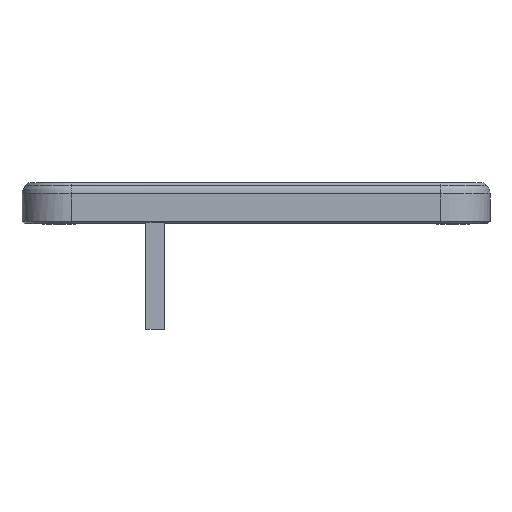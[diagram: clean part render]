
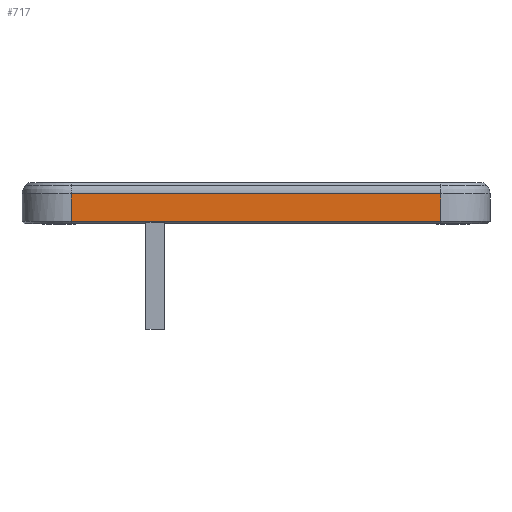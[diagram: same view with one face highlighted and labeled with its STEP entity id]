
A CAD part, front view. The second image highlights one B-rep face of the part: STEP entity #717.
In plain terms, the highlighted planar face has unit normal (0, -1, 0).
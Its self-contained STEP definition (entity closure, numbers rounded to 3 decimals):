
#44 = CYLINDRICAL_SURFACE('',#45,12.);
#45 = AXIS2_PLACEMENT_3D('',#46,#47,#48);
#46 = CARTESIAN_POINT('',(-9.94,-13.4,38.8));
#47 = DIRECTION('',(0.,0.,1.));
#48 = DIRECTION('',(-1.,-0.,0.));
#143 = VERTEX_POINT('',#144);
#144 = CARTESIAN_POINT('',(-9.94,-25.4,39.4));
#171 = EDGE_CURVE('',#143,#172,#174,.T.);
#172 = VERTEX_POINT('',#173);
#173 = CARTESIAN_POINT('',(-9.94,-25.4,46.057));
#174 = SURFACE_CURVE('',#175,(#179,#186),.PCURVE_S1.);
#175 = LINE('',#176,#177);
#176 = CARTESIAN_POINT('',(-9.94,-25.4,38.8));
#177 = VECTOR('',#178,1.);
#178 = DIRECTION('',(0.,0.,1.));
#179 = PCURVE('',#44,#180);
#180 = DEFINITIONAL_REPRESENTATION('',(#181),#185);
#181 = LINE('',#182,#183);
#182 = CARTESIAN_POINT('',(1.571,0.));
#183 = VECTOR('',#184,1.);
#184 = DIRECTION('',(0.,1.));
#185 = ( GEOMETRIC_REPRESENTATION_CONTEXT(2) 
PARAMETRIC_REPRESENTATION_CONTEXT() REPRESENTATION_CONTEXT('2D SPACE',''
  ) );
#186 = PCURVE('',#187,#192);
#187 = PLANE('',#188);
#188 = AXIS2_PLACEMENT_3D('',#189,#190,#191);
#189 = CARTESIAN_POINT('',(-21.94,-25.4,38.8));
#190 = DIRECTION('',(0.,1.,0.));
#191 = DIRECTION('',(0.,0.,1.));
#192 = DEFINITIONAL_REPRESENTATION('',(#193),#197);
#193 = LINE('',#194,#195);
#194 = CARTESIAN_POINT('',(0.,12.));
#195 = VECTOR('',#196,1.);
#196 = DIRECTION('',(1.,0.));
#197 = ( GEOMETRIC_REPRESENTATION_CONTEXT(2) 
PARAMETRIC_REPRESENTATION_CONTEXT() REPRESENTATION_CONTEXT('2D SPACE',''
  ) );
#584 = PLANE('',#585);
#585 = AXIS2_PLACEMENT_3D('',#586,#587,#588);
#586 = CARTESIAN_POINT('',(80.4,-25.1,39.1));
#587 = DIRECTION('',(0.,-0.707,-0.707
    ));
#588 = DIRECTION('',(-1.,0.,0.));
#670 = CYLINDRICAL_SURFACE('',#671,3.);
#671 = AXIS2_PLACEMENT_3D('',#672,#673,#674);
#672 = CARTESIAN_POINT('',(80.4,-22.4,46.057));
#673 = DIRECTION('',(-1.,-0.,-0.));
#674 = DIRECTION('',(0.,-1.,0.));
#717 = ADVANCED_FACE('',(#718),#187,.F.);
#718 = FACE_BOUND('',#719,.F.);
#719 = EDGE_LOOP('',(#720,#721,#744,#772));
#720 = ORIENTED_EDGE('',*,*,#171,.T.);
#721 = ORIENTED_EDGE('',*,*,#722,.F.);
#722 = EDGE_CURVE('',#723,#172,#725,.T.);
#723 = VERTEX_POINT('',#724);
#724 = CARTESIAN_POINT('',(80.4,-25.4,46.057));
#725 = SURFACE_CURVE('',#726,(#730,#737),.PCURVE_S1.);
#726 = LINE('',#727,#728);
#727 = CARTESIAN_POINT('',(80.4,-25.4,46.057));
#728 = VECTOR('',#729,1.);
#729 = DIRECTION('',(-1.,-0.,-0.));
#730 = PCURVE('',#187,#731);
#731 = DEFINITIONAL_REPRESENTATION('',(#732),#736);
#732 = LINE('',#733,#734);
#733 = CARTESIAN_POINT('',(7.257,102.34));
#734 = VECTOR('',#735,1.);
#735 = DIRECTION('',(-0.,-1.));
#736 = ( GEOMETRIC_REPRESENTATION_CONTEXT(2) 
PARAMETRIC_REPRESENTATION_CONTEXT() REPRESENTATION_CONTEXT('2D SPACE',''
  ) );
#737 = PCURVE('',#670,#738);
#738 = DEFINITIONAL_REPRESENTATION('',(#739),#743);
#739 = LINE('',#740,#741);
#740 = CARTESIAN_POINT('',(0.,0.));
#741 = VECTOR('',#742,1.);
#742 = DIRECTION('',(0.,1.));
#743 = ( GEOMETRIC_REPRESENTATION_CONTEXT(2) 
PARAMETRIC_REPRESENTATION_CONTEXT() REPRESENTATION_CONTEXT('2D SPACE',''
  ) );
#744 = ORIENTED_EDGE('',*,*,#745,.F.);
#745 = EDGE_CURVE('',#746,#723,#748,.T.);
#746 = VERTEX_POINT('',#747);
#747 = CARTESIAN_POINT('',(80.4,-25.4,39.4));
#748 = SURFACE_CURVE('',#749,(#753,#760),.PCURVE_S1.);
#749 = LINE('',#750,#751);
#750 = CARTESIAN_POINT('',(80.4,-25.4,38.8));
#751 = VECTOR('',#752,1.);
#752 = DIRECTION('',(0.,0.,1.));
#753 = PCURVE('',#187,#754);
#754 = DEFINITIONAL_REPRESENTATION('',(#755),#759);
#755 = LINE('',#756,#757);
#756 = CARTESIAN_POINT('',(0.,102.34));
#757 = VECTOR('',#758,1.);
#758 = DIRECTION('',(1.,0.));
#759 = ( GEOMETRIC_REPRESENTATION_CONTEXT(2) 
PARAMETRIC_REPRESENTATION_CONTEXT() REPRESENTATION_CONTEXT('2D SPACE',''
  ) );
#760 = PCURVE('',#761,#766);
#761 = CYLINDRICAL_SURFACE('',#762,12.);
#762 = AXIS2_PLACEMENT_3D('',#763,#764,#765);
#763 = CARTESIAN_POINT('',(80.4,-13.4,38.8));
#764 = DIRECTION('',(0.,0.,1.));
#765 = DIRECTION('',(1.,0.,-0.));
#766 = DEFINITIONAL_REPRESENTATION('',(#767),#771);
#767 = LINE('',#768,#769);
#768 = CARTESIAN_POINT('',(-1.571,0.));
#769 = VECTOR('',#770,1.);
#770 = DIRECTION('',(-0.,1.));
#771 = ( GEOMETRIC_REPRESENTATION_CONTEXT(2) 
PARAMETRIC_REPRESENTATION_CONTEXT() REPRESENTATION_CONTEXT('2D SPACE',''
  ) );
#772 = ORIENTED_EDGE('',*,*,#773,.T.);
#773 = EDGE_CURVE('',#746,#143,#774,.T.);
#774 = SURFACE_CURVE('',#775,(#779,#786),.PCURVE_S1.);
#775 = LINE('',#776,#777);
#776 = CARTESIAN_POINT('',(80.4,-25.4,39.4));
#777 = VECTOR('',#778,1.);
#778 = DIRECTION('',(-1.,-0.,-0.));
#779 = PCURVE('',#187,#780);
#780 = DEFINITIONAL_REPRESENTATION('',(#781),#785);
#781 = LINE('',#782,#783);
#782 = CARTESIAN_POINT('',(0.6,102.34));
#783 = VECTOR('',#784,1.);
#784 = DIRECTION('',(-0.,-1.));
#785 = ( GEOMETRIC_REPRESENTATION_CONTEXT(2) 
PARAMETRIC_REPRESENTATION_CONTEXT() REPRESENTATION_CONTEXT('2D SPACE',''
  ) );
#786 = PCURVE('',#584,#787);
#787 = DEFINITIONAL_REPRESENTATION('',(#788),#792);
#788 = LINE('',#789,#790);
#789 = CARTESIAN_POINT('',(0.,-0.424));
#790 = VECTOR('',#791,1.);
#791 = DIRECTION('',(1.,0.));
#792 = ( GEOMETRIC_REPRESENTATION_CONTEXT(2) 
PARAMETRIC_REPRESENTATION_CONTEXT() REPRESENTATION_CONTEXT('2D SPACE',''
  ) );
